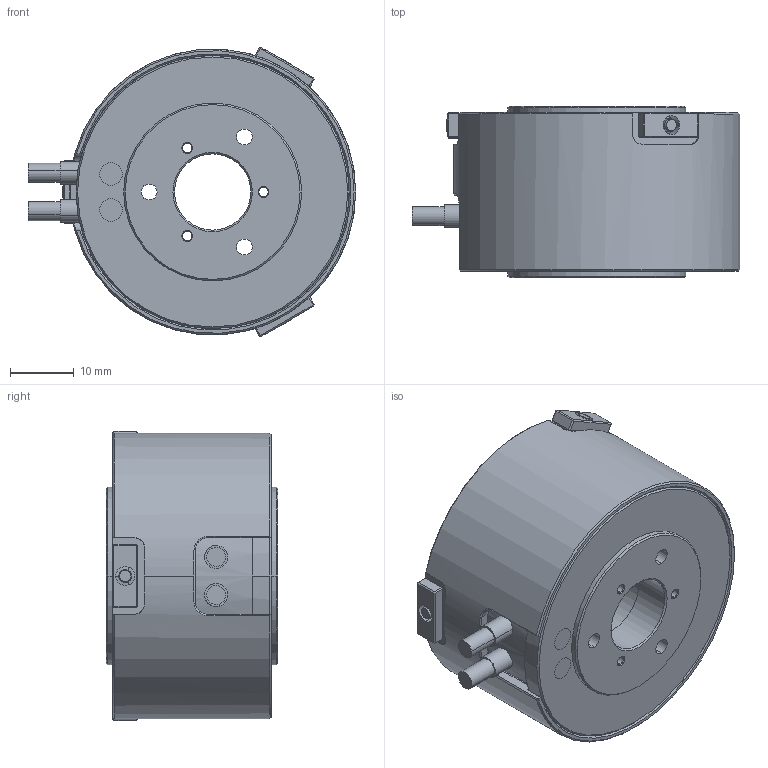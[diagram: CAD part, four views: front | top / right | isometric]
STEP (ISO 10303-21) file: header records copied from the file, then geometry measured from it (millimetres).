
FILE_DESCRIPTION (( 'STEP AP203' ), '1' );
FILE_NAME ('B-2018-0018-00128_K-Modell Kabel seitlich.STEP', '2020-09-28T13:01:28', ( '' ), ( '' ), 'SwSTEP 2.0', 'SolidWorks 2018', '' );
FILE_SCHEMA (( 'CONFIG_CONTROL_DESIGN' ));
Length unit declared in the file: millimetre
Products named in the file (1): B-2018-0018-00128_K-Modell Kabel seitlich
Bounding box: 51.5 x 27 x 45.5 mm (x, y, z)
Surface area: 16333.2 mm2 (no closed solid volume)
Topology: 0 solids, 15 shells, 258 faces, 782 edges, 543 vertices
Faces by surface type: plane 121, cylinder 84, cone 49, bspline 4
Entity records: 10270 total; most frequent: CARTESIAN_POINT 3206, DIRECTION 1436, ORIENTED_EDGE 1380, EDGE_CURVE 782, VERTEX_POINT 543, AXIS2_PLACEMENT_3D 504, LINE 428, VECTOR 428
